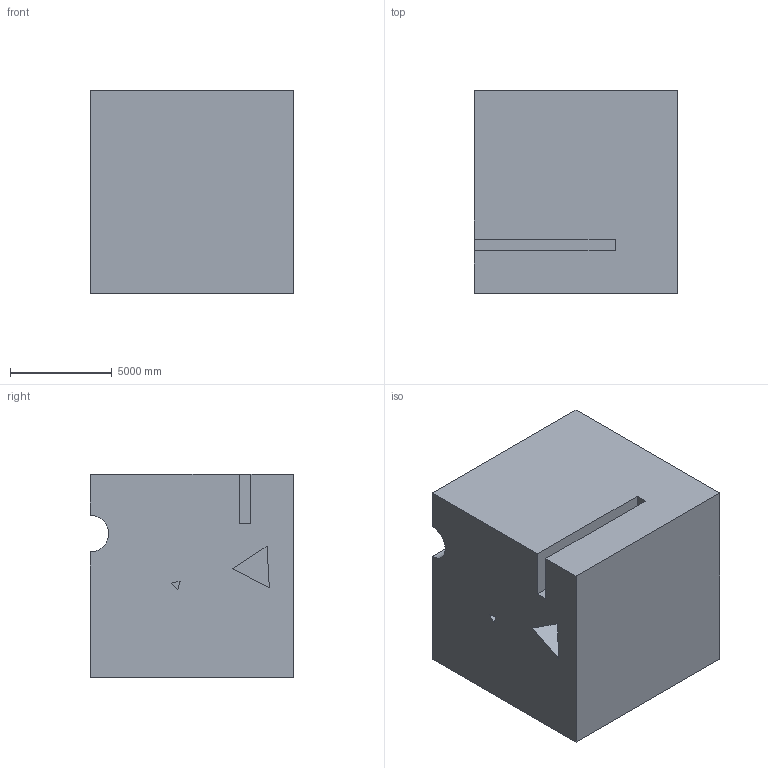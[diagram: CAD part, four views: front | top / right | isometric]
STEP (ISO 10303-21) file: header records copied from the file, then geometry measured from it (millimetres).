
FILE_DESCRIPTION (( 'STEP AP203' ), '1' );
FILE_NAME ('153.STEP', '2022-09-06T13:26:07', ( 'user' ), ( '' ), 'SwSTEP 2.0', 'SolidWorks 2021', '' );
FILE_SCHEMA (( 'CONFIG_CONTROL_DESIGN' ));
Length unit declared in the file: centimetre
Products named in the file (1): 153
Bounding box: 10000 x 10000 x 10000 mm (x, y, z)
Volume: 960718868101.1 mm3; surface area: 709014115.3 mm2
Topology: 1 solids, 1 shells, 31 faces, 75 edges, 50 vertices
Faces by surface type: plane 24, cylinder 7
Entity records: 980 total; most frequent: CARTESIAN_POINT 157, DIRECTION 153, ORIENTED_EDGE 150, EDGE_CURVE 75, LINE 61, VECTOR 61, VERTEX_POINT 50, AXIS2_PLACEMENT_3D 46
